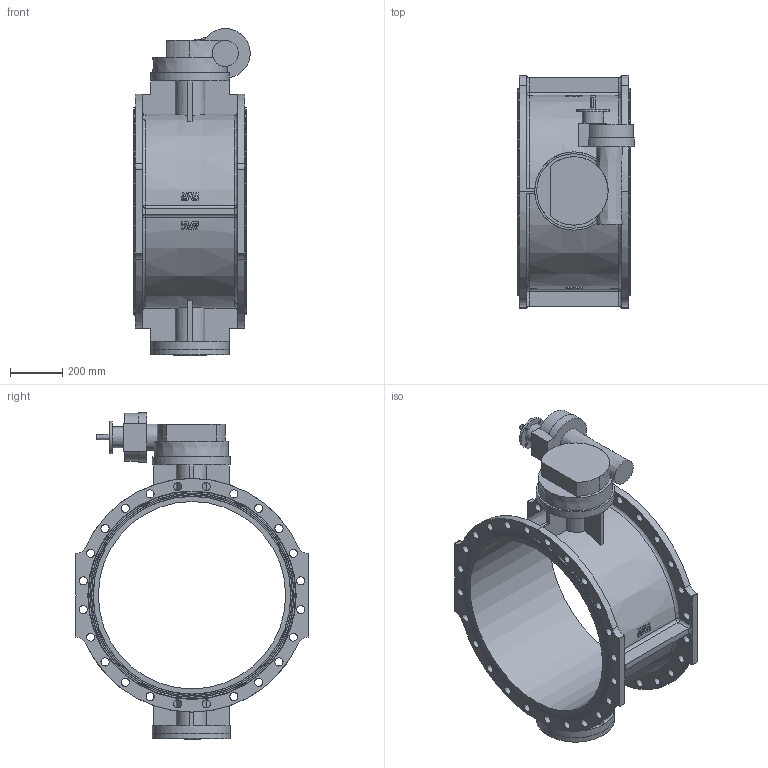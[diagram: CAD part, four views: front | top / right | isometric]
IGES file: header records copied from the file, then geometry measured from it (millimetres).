
Start section: SolidWorks IGES file using analytic representation for surfaces
Global section: file name: \\avksan2\techshare\PBM outline export from Enovia\O_756_102_DN700_0XX_AA0_igs.igs; native system: SolidWorks 2012; preprocessor: SolidWorks 2012; author: pbm; date: 160309.130423; units: millimetre
Bounding box: 446 x 895 x 1252.42 mm (x, y, z)
Surface area: 3895716.8 mm2 (no closed solid volume)
Topology: 0 solids, 0 shells, 621 faces, 3468 edges, 3323 vertices
Faces by surface type: bspline 421, revolution 200
